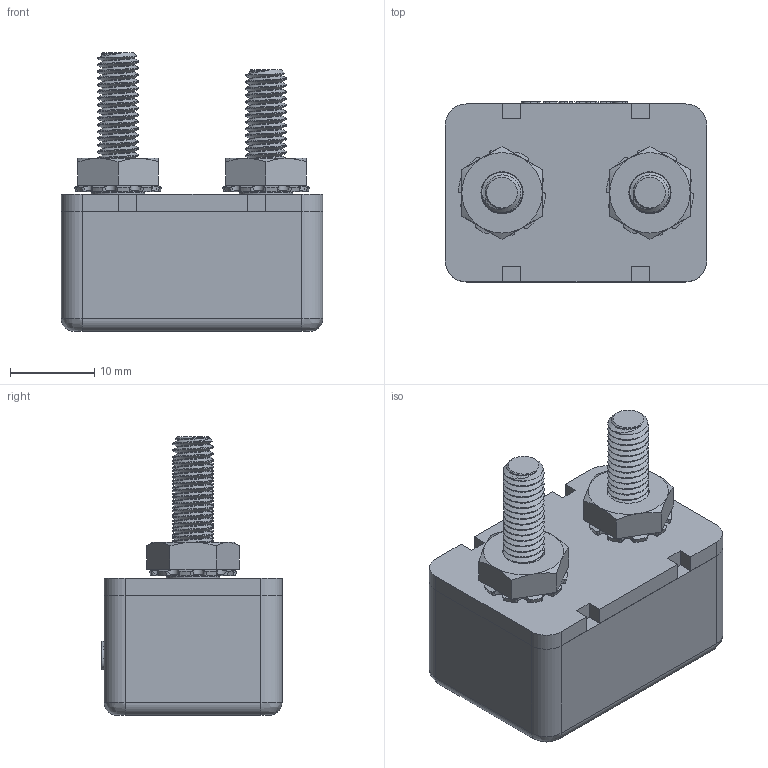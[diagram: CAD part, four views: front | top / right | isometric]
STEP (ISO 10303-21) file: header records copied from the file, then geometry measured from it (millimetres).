
FILE_DESCRIPTION(/* description */ (''),/* implementation_level */ '2;1');
FILE_NAME(/* name */ 'C:\Users\Hani\Desktop\work\ACBP-N-Gray\ACBP-N.stp',/* time_stamp */ '2021-08-06T12:04:54-07:00',/* author */ ('Hani'),/* organization */ (''),/* preprocessor_version */ 'ST-DEVELOPER v17',/* originating_system */ 'Autodesk Inventor 2019',/* authorisation */ '');
FILE_SCHEMA (('AUTOMOTIVE_DESIGN { 1 0 10303 214 3 1 1 }'));
Length unit declared in the file: inch
Products named in the file (4): ACBP-V; ACBP-V_1; THREADED ROD; HEX NUT WITH TOOTH WASHER
Assembly tree (5 placements, depth 2):
  ACBP-V
    ACBP-V_1
    THREADED ROD  x2
    HEX NUT WITH TOOTH WASHER  x2
Bounding box: 30.99 x 21.34 x 33.02 mm (x, y, z)
Volume: 11500 mm3; surface area: 5982.8 mm2
Topology: 8 solids, 8 shells, 446 faces, 1234 edges, 820 vertices
Faces by surface type: cylinder 156, plane 125, bspline 119, cone 46
Full cylindrical faces by diameter (mm): 3.795 x46, 3.967 x6, 4.826 x52, 6.35 x2, 6.413 x2
Entity records: 16131 total; most frequent: CARTESIAN_POINT 8669, ORIENTED_EDGE 1724, DIRECTION 1116, EDGE_CURVE 862, VERTEX_POINT 572, LINE 400, VECTOR 400, AXIS2_PLACEMENT_3D 358
